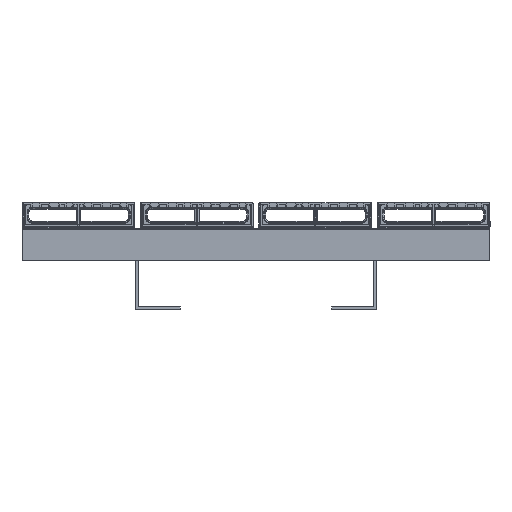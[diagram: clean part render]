
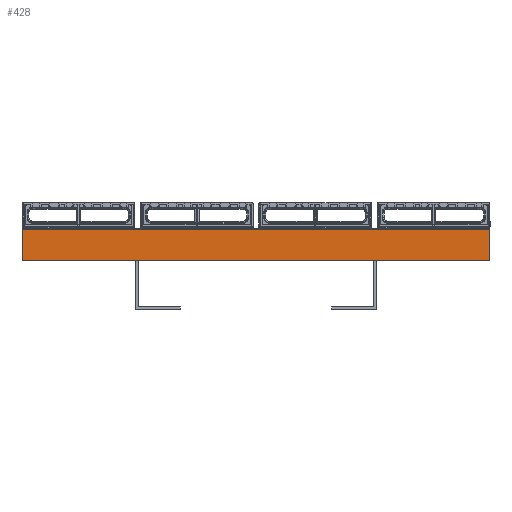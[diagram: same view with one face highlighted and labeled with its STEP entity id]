
A CAD part, front view. The second image highlights one B-rep face of the part: STEP entity #428.
In plain terms, the highlighted planar face has unit normal (0, -1, 0) as drawn and (-1, 0, 0) by its records, which use the part's own axes.
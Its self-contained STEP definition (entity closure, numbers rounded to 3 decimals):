
#45 = LINE ( 'NONE', #1332, #159 ) ;
#88 = LINE ( 'NONE', #1576, #150 ) ;
#126 = VECTOR ( 'NONE', #1173, 1000. ) ;
#128 = LINE ( 'NONE', #1036, #126 ) ;
#150 = VECTOR ( 'NONE', #1352, 1000. ) ;
#159 = VECTOR ( 'NONE', #1439, 1000. ) ;
#428 = ADVANCED_FACE ( 'NONE', ( #4384 ), #2173, .F. ) ;
#451 = AXIS2_PLACEMENT_3D ( 'NONE', #2166, #2162, #2160 ) ;
#1036 = CARTESIAN_POINT ( 'NONE',  ( -14.25, 0., 0. ) ) ;
#1173 = DIRECTION ( 'NONE',  ( 0., 0., 1. ) ) ;
#1178 = DIRECTION ( 'NONE',  ( 0., 0., 1. ) ) ;
#1179 = CARTESIAN_POINT ( 'NONE',  ( -14.25, 375., 0. ) ) ;
#1332 = CARTESIAN_POINT ( 'NONE',  ( -14.25, 375., -12.45 ) ) ;
#1352 = DIRECTION ( 'NONE',  ( 0., -1., 0. ) ) ;
#1439 = DIRECTION ( 'NONE',  ( 0., -1., 0. ) ) ;
#1576 = CARTESIAN_POINT ( 'NONE',  ( -14.25, 375., 12.45 ) ) ;
#1889 = EDGE_LOOP ( 'NONE', ( #2605, #2568, #2627, #2776 ) ) ;
#2160 = DIRECTION ( 'NONE',  ( 0., 0., -1. ) ) ;
#2162 = DIRECTION ( 'NONE',  ( 1., 0., 0. ) ) ;
#2166 = CARTESIAN_POINT ( 'NONE',  ( -14.25, 375., 0. ) ) ;
#2173 = PLANE ( 'NONE',  #451 ) ;
#2568 = ORIENTED_EDGE ( 'NONE', *, *, #4270, .F. ) ;
#2605 = ORIENTED_EDGE ( 'NONE', *, *, #4318, .T. ) ;
#2627 = ORIENTED_EDGE ( 'NONE', *, *, #4338, .F. ) ;
#2776 = ORIENTED_EDGE ( 'NONE', *, *, #4285, .T. ) ;
#2975 = LINE ( 'NONE', #1179, #2985 ) ;
#2985 = VECTOR ( 'NONE', #1178, 1000. ) ;
#4270 = EDGE_CURVE ( 'NONE', #5269, #5337, #88, .T. ) ;
#4285 = EDGE_CURVE ( 'NONE', #5334, #5197, #45, .T. ) ;
#4318 = EDGE_CURVE ( 'NONE', #5197, #5337, #128, .T. ) ;
#4338 = EDGE_CURVE ( 'NONE', #5334, #5269, #2975, .T. ) ;
#4384 = FACE_OUTER_BOUND ( 'NONE', #1889, .T. ) ;
#5197 = VERTEX_POINT ( 'NONE', #7803 ) ;
#5269 = VERTEX_POINT ( 'NONE', #7761 ) ;
#5334 = VERTEX_POINT ( 'NONE', #7831 ) ;
#5337 = VERTEX_POINT ( 'NONE', #7834 ) ;
#7761 = CARTESIAN_POINT ( 'NONE',  ( -14.25, 375., 12.45 ) ) ;
#7803 = CARTESIAN_POINT ( 'NONE',  ( -14.25, 0., -12.45 ) ) ;
#7831 = CARTESIAN_POINT ( 'NONE',  ( -14.25, 375., -12.45 ) ) ;
#7834 = CARTESIAN_POINT ( 'NONE',  ( -14.25, 0., 12.45 ) ) ;
